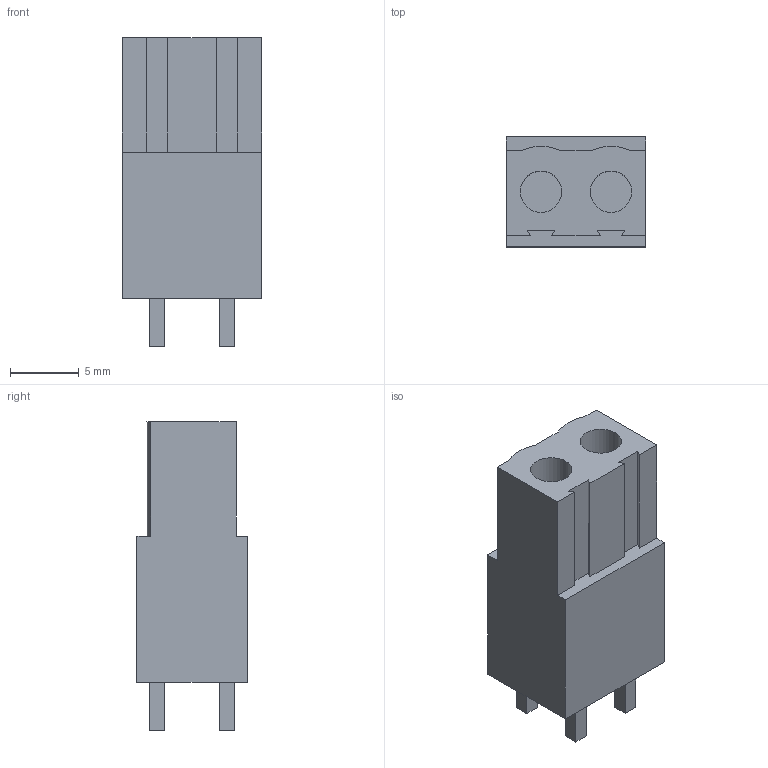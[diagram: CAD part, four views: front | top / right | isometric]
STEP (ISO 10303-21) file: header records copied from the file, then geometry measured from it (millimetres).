
FILE_DESCRIPTION(('FreeCAD Model'),'2;1');
FILE_NAME('Open CASCADE Shape Model','2026-06-25T01:30:33',(''),(''), 'Open CASCADE STEP processor 7.8','FreeCAD','Unknown');
FILE_SCHEMA(('AUTOMOTIVE_DESIGN { 1 0 10303 214 1 1 1 1 }'));
Length unit declared in the file: millimetre
Products named in the file (1): Body
Bounding box: 10.16 x 8 x 22.4 mm (x, y, z)
Volume: 1281.5 mm3; surface area: 1061.6 mm2
Topology: 1 solids, 1 shells, 46 faces, 114 edges, 76 vertices
Faces by surface type: plane 42, cylinder 4
Full cylindrical faces by diameter (mm): 3 x2
Entity records: 1368 total; most frequent: CARTESIAN_POINT 237, ORIENTED_EDGE 228, DIRECTION 216, EDGE_CURVE 114, LINE 106, VECTOR 106, VERTEX_POINT 76, AXIS2_PLACEMENT_3D 55
